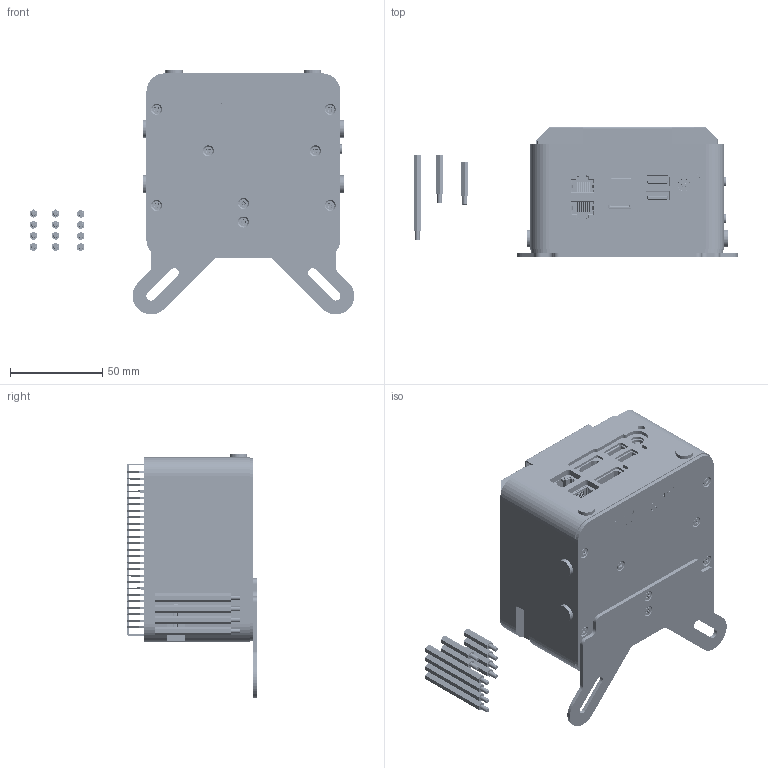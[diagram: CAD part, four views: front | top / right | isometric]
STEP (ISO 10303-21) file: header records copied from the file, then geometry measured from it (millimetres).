
FILE_DESCRIPTION((''),'2;1');
FILE_NAME('HS-CP_MID-57_BOTPLT_190114_ASM','2021-05-20T17:32:56',('test'),(''),'CREO PARAMETRIC BY PTC INC, 2018190','CREO PARAMETRIC BY PTC INC, 2018190','');
FILE_SCHEMA(('AUTOMOTIVE_DESIGN { 1 0 10303 214 1 1 1 1 }'));
Products named in the file (75): R47_4; 530470210_2; U10_3; PIN-HEADER-2P0-06_2; MANIFOLD_SOLID_BREP_278388; MANIFOLD_SOLID_BREP_278877; MANIFOLD_SOLID_BREP_278714; G7410-22000001-00_2_ASM-166071; MANIFOLD_SOLID_BREP_278551; G7410-22000001-00_2_ASM-373567_ASM; FH35-41S-03SHW_2; ASM0111_ASM_2_ASM_ASM; FH35-41S-0_3SHW_ASM_2_ASM_ASM; CHIKE-1_4; PRT0211_3_2; PRT0212_3_2; PRT0213_3_2; 2230-MINI-PCIE_3_2; PRT0210_3_2; M-2_ASM_2_ASM_ASM; MINI-PCI-EXPRESS-52PIN_2; 1655802020_2; CHOKE_4; 1654907009_4; 1304300140_2; CN3_3; AYF333135-CLOSED_2; PCB-85-85_16; 1654809302_2; 1654801010_4; 1655910130_2; SO-M2P5-STANDOFF-L5P0_2; U11_3; 1601000990_3; 1652503109_2; CPU_9; 3VD1120X-XHJ0-4H_20160602_4; SO-GUIDE-M3_STANDOFFS-_5P0_2; U52_4; WAFER-JST-B02B-PH-K-S_2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
Assembly tree (125 placements, depth 7):
  HS-CP_MID-57_BOTPLT_190114_ASM
    HS-CP_MID-57_BOTPLT_190114_1_ASM
      PCBA-UP2_HEATSINK-0001_ASM
        PCBA-UP2-85-56_ASM_91_ASM_ASM
          R47_4  x5
          530470210_2
          U10_3  x3
          PIN-HEADER-2P0-06_2
          G7410-22000001-00_2_ASM-373567_ASM
            MANIFOLD_SOLID_BREP_278388
            MANIFOLD_SOLID_BREP_278877
            MANIFOLD_SOLID_BREP_278714
            G7410-22000001-00_2_ASM-166071
            MANIFOLD_SOLID_BREP_278551
          FH35-41S-0_3SHW_ASM_2_ASM_ASM
            ASM0111_ASM_2_ASM_ASM
              FH35-41S-03SHW_2
          CHIKE-1_4
          M-2_ASM_2_ASM_ASM
            PRT0211_3_2  x4
            PRT0212_3_2  x4
            PRT0213_3_2  x2
            2230-MINI-PCIE_3_2
            PRT0210_3_2
          MINI-PCI-EXPRESS-52PIN_2
          1655802020_2
          CHOKE_4
          1654907009_4
          1304300140_2  x4
          CN3_3  x2
          AYF333135-CLOSED_2
          PCB-85-85_16
          1654809302_2
          1654801010_4
          1655910130_2
          SO-M2P5-STANDOFF-L5P0_2
          U11_3
          1601000990_3
          1652503109_2
          CPU_9
          3VD1120X-XHJ0-4H_20160602_4
          SO-GUIDE-M3_STANDOFFS-_5P0_2
          U52_4
          WAFER-JST-B02B-PH-K-S_2
          AXK6S60547Y_3
          FH35-21S-0_3SHW_ASM_2_ASM_ASM
            ASSEMBLY-1_ASM_2_ASM_ASM
              FH35-21S-03SHW_2
          0717A0BA99C_2
          PIN-HEADER-DUAL-254-040_2
          5406-X01-021-XX_ASM_1_ASM_ASM
            5406-X01-011-XX_ASM_ASM_1_ASM_ASM
              _5406-X01-011-XX_1
          U43_2
      S1BB046020  x4
      UP2-10001_ASM
        1998UP2010  x2
        1998UP2000
        _UP2__ATOM_UP2-10001
      BOTPLT_SCREW_20190114_ASM
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Bounding box: 175.65 x 70.4 x 132.48 mm (x, y, z)
Volume: 253028.3 mm3; surface area: 279926.8 mm2
Topology: 127 solids, 144 shells, 19349 faces, 54313 edges, 35189 vertices
Faces by surface type: plane 12699, cylinder 4561, cone 860, torus 622, extrusion 306, sphere 223, bspline 78
Entity records: 574633 total; most frequent: CARTESIAN_POINT 114677, ORIENTED_EDGE 96306, DIRECTION 89259, EDGE_CURVE 48222, VECTOR 37475, LINE 37169, VERTEX_POINT 31668, AXIS2_PLACEMENT_3D 25892
